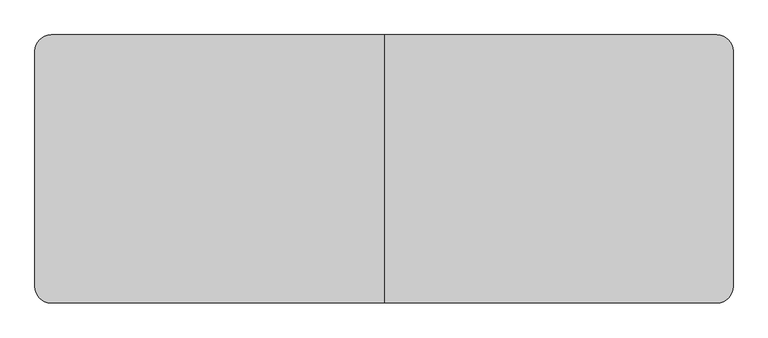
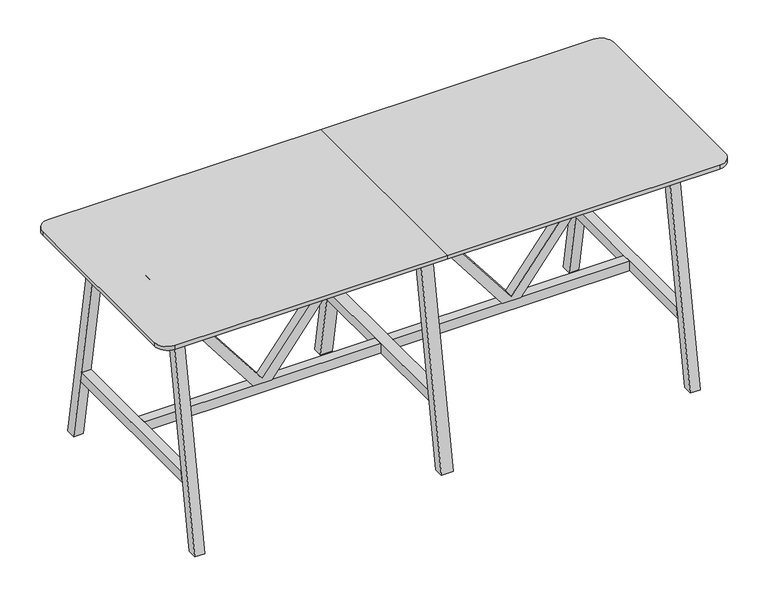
"""IFC4 building model written with IfcOpenShell, lengths in millimetres: furniture geometry, BDG_BossDesign_Tbls_AgentTables6Legs : AGE-HT-6L-2600-1000-3D."""

import ifcopenshell
import ifcopenshell.guid

model = None  # the IFC model being written
_history = None  # IfcOwnerHistory: only IFC2X3 demands one
_inside = {}  # id of a spatial element -> (the spatial element, [elements in it])
_under = {}  # id of a project, library or spatial element -> (it, [spatial elements below it])
_declared = {}  # id of a project -> (the project, [libraries it declares])
_typed = {}  # id of a type object -> (the type object, [elements of that type])
_made_of = {}  # id of a material, layer set ... -> (it, [elements and type objects made of it])


def new_model(schema):
    """Start an empty IFC model of exactly this schema.

    Asked for "IFC4X3", IfcOpenShell would pick the latest addendum, in which some entities
    have other attributes; the version numbers below select the first issue.
    IFC2X3 requires an IfcOwnerHistory on every rooted entity: one is made here for all.
    """
    global model, _history
    if schema == "IFC4X3":
        model = ifcopenshell.file(schema_version=(4, 3, 0, 0))
    else:
        model = ifcopenshell.file(schema=schema)
    _inside.clear()
    _under.clear()
    _declared.clear()
    _typed.clear()
    _made_of.clear()
    _history = None
    if model.schema == "IFC2X3":
        org = make("IfcOrganization", Name="unknown")
        user = make(
            "IfcPersonAndOrganization",
            ThePerson=make("IfcPerson", FamilyName="unknown"),
            TheOrganization=org,
        )
        app = make(
            "IfcApplication",
            ApplicationDeveloper=org,
            Version="unknown",
            ApplicationFullName="unknown",
            ApplicationIdentifier="unknown",
        )
        _history = make(
            "IfcOwnerHistory",
            OwningUser=user,
            OwningApplication=app,
            ChangeAction="ADDED",
            CreationDate=0,
        )
    return model


def make(cls, **values):
    """One entity of the class cls with the attributes given. An attribute that is None is left unset."""
    return model.create_entity(
        cls, **{name: value for name, value in values.items() if value is not None}
    )


def rooted(cls, **values):
    """An entity with a GlobalId (a new one), such as an element, a storey or a relation."""
    return make(cls, GlobalId=ifcopenshell.guid.new(), OwnerHistory=_history, **values)


def si_unit(unit_type, name, prefix=None):
    """IfcSIUnit, for example si_unit("LENGTHUNIT", "METRE", prefix="MILLI")."""
    return make("IfcSIUnit", UnitType=unit_type, Prefix=prefix, Name=name)


def assignment(units):
    """IfcUnitAssignment: the units of a project."""
    return None if units is None else make("IfcUnitAssignment", Units=units)


def point(xyz):
    """IfcCartesianPoint."""
    return None if xyz is None else make("IfcCartesianPoint", Coordinates=xyz)


def direction(xyz):
    """IfcDirection."""
    return None if xyz is None else make("IfcDirection", DirectionRatios=xyz)


def frame(location, z_axis=None, x_axis=None):
    """IfcAxis2Placement3D, a coordinate frame: its origin and axes. An axis left out is left unset."""
    return make(
        "IfcAxis2Placement3D",
        Location=point(location),
        Axis=direction(z_axis),
        RefDirection=direction(x_axis),
    )


def frame_2d(location, x_axis=None):
    """IfcAxis2Placement2D, a coordinate frame in the plane: its origin and x axis."""
    return make(
        "IfcAxis2Placement2D", Location=point(location), RefDirection=direction(x_axis)
    )


def origin():
    """The frame at (0, 0, 0) with its axes left unset."""
    return frame((0.0, 0.0, 0.0))


def place(relative_to, where):
    """IfcLocalPlacement: puts the frame where relative to a parent placement (None: the world)."""
    return make(
        "IfcLocalPlacement", PlacementRelTo=relative_to, RelativePlacement=where
    )


def context(
    kind, dimensions, precision=None, world=None, true_north=None, identifier=None
):
    """IfcGeometricRepresentationContext, for example the 3D "Model" context."""
    return make(
        "IfcGeometricRepresentationContext",
        ContextIdentifier=identifier,
        ContextType=kind,
        CoordinateSpaceDimension=dimensions,
        Precision=precision,
        WorldCoordinateSystem=world,
        TrueNorth=true_north,
    )


def project(units=None, contexts=None):
    """IfcProject with its units and contexts."""
    return rooted(
        "IfcProject",
        Name="project",
        RepresentationContexts=contexts,
        UnitsInContext=assignment(units),
    )


def spatial(cls, under=None, at=None, **own):
    """A site, building, storey or space (cls), placed at a placement, below another one or the project."""
    s = rooted(cls, ObjectPlacement=at, **own)
    if under is not None:
        _under.setdefault(under.id(), (under, []))[1].append(s)
    return s


def polyline(points):
    """IfcPolyline through the points."""
    return make("IfcPolyline", Points=[point(p) for p in points])


def circle_curve(where, radius):
    """IfcCircle in the frame where."""
    return make("IfcCircle", Position=where, Radius=radius)


def trimmed(basis, trim1, trim2, sense, master):
    """IfcTrimmedCurve: the piece of a basis curve between two trims."""
    return make(
        "IfcTrimmedCurve",
        BasisCurve=basis,
        Trim1=trim1,
        Trim2=trim2,
        SenseAgreement=sense,
        MasterRepresentation=master,
    )


def segment(curve, same_sense, transition):
    """IfcCompositeCurveSegment."""
    return make(
        "IfcCompositeCurveSegment",
        Transition=transition,
        SameSense=same_sense,
        ParentCurve=curve,
    )


def composite_curve(segments, self_intersect=None):
    """IfcCompositeCurve: segments joined end to end."""
    return make("IfcCompositeCurve", Segments=segments, SelfIntersect=self_intersect)


def outline(outer, holes=None, kind="AREA"):
    """IfcArbitraryClosedProfileDef: a profile drawn as a closed curve; with holes, ...WithVoids."""
    if holes is None:
        return make("IfcArbitraryClosedProfileDef", ProfileType=kind, OuterCurve=outer)
    return make(
        "IfcArbitraryProfileDefWithVoids",
        ProfileType=kind,
        OuterCurve=outer,
        InnerCurves=holes,
    )


def extrude(swept, where, along, depth):
    """IfcExtrudedAreaSolid: the profile swept, set in the frame where, extruded along a direction by depth."""
    return make(
        "IfcExtrudedAreaSolid",
        SweptArea=swept,
        Position=where,
        ExtrudedDirection=direction(along),
        Depth=depth,
    )


def shape(context_of_items, identifier, shape_type, items):
    """IfcShapeRepresentation: the items that make up one representation, for example the "Body"."""
    return make(
        "IfcShapeRepresentation",
        ContextOfItems=context_of_items,
        RepresentationIdentifier=identifier,
        RepresentationType=shape_type,
        Items=items,
    )


def source(mapping_origin, context_of_items, identifier, shape_type, items):
    """IfcRepresentationMap: a shape defined once, which mapped items show again and again."""
    return make(
        "IfcRepresentationMap",
        MappingOrigin=mapping_origin,
        MappedRepresentation=shape(context_of_items, identifier, shape_type, items),
    )


def transform(
    local_origin,
    x_axis=None,
    y_axis=None,
    z_axis=None,
    scale=None,
    scale2=None,
    scale3=None,
    uniform=True,
):
    """IfcCartesianTransformationOperator3D, or its non-uniform kind. x_axis, y_axis, z_axis: its Axis1, 2, 3."""
    if uniform:
        return make(
            "IfcCartesianTransformationOperator3D",
            Axis1=direction(x_axis),
            Axis2=direction(y_axis),
            LocalOrigin=point(local_origin),
            Scale=scale,
            Axis3=direction(z_axis),
        )
    return make(
        "IfcCartesianTransformationOperator3DnonUniform",
        Axis1=direction(x_axis),
        Axis2=direction(y_axis),
        LocalOrigin=point(local_origin),
        Scale=scale,
        Axis3=direction(z_axis),
        Scale2=scale2,
        Scale3=scale3,
    )


def mapped(mapping_source, mapping_target):
    """IfcMappedItem: shows the shape of a source again, moved by a transform."""
    return make(
        "IfcMappedItem", MappingSource=mapping_source, MappingTarget=mapping_target
    )


def made_of(thing, what):
    """Note that an element or type object is made of a material, layer set ...; save() writes the relation."""
    if what is not None:
        _made_of.setdefault(what.id(), (what, []))[1].append(thing)
    return thing


def element(
    cls,
    number,
    at=None,
    inside=None,
    cuts=None,
    type_object=None,
    material=None,
    context=None,
    identifier="Body",
    shape_type=None,
    held_by="IfcProductDefinitionShape",
    body=None,
    shapes=None,
    **own,
):
    """One element of the class cls, such as IfcWall. Its Tag is "e" and its number.

    at: its placement. inside: the storey or other place that contains it. cuts: it is an
    opening in that element (IfcRelVoidsElement). A single representation is given by context,
    identifier, shape_type and body (its items); several are given by shapes. held_by: the class
    of the entity that holds the representations. save() writes the other relations.
    """
    e = rooted(cls, Tag="e%d" % number, ObjectPlacement=at, **own)
    if body is not None:
        shapes = [shape(context, identifier, shape_type, body)]
    if shapes is not None:
        e.Representation = make(held_by, Representations=shapes)
    if inside is not None:
        _inside.setdefault(inside.id(), (inside, []))[1].append(e)
    if cuts is not None:
        rooted(
            "IfcRelVoidsElement", RelatingBuildingElement=cuts, RelatedOpeningElement=e
        )
    if type_object is not None:
        _typed.setdefault(type_object.id(), (type_object, []))[1].append(e)
    return made_of(e, material)


def aggregate(whole, parts):
    """IfcRelAggregates: a whole, such as a stair, and the parts it consists of."""
    return rooted("IfcRelAggregates", RelatingObject=whole, RelatedObjects=parts)


def save(model, path):
    """Write the relations noted so far, then the file.

    IfcRelAggregates (storeys below a building ...), IfcRelContainedInSpatialStructure (elements
    in a storey), IfcRelDefinesByType, IfcRelAssociatesMaterial and IfcRelDeclares: one each for
    every whole, place, type object, material and project.
    """
    for whole, parts in _under.values():
        aggregate(whole, parts)
    for where, things in _inside.values():
        rooted(
            "IfcRelContainedInSpatialStructure",
            RelatedElements=things,
            RelatingStructure=where,
        )
    for kind, things in _typed.values():
        rooted("IfcRelDefinesByType", RelatedObjects=things, RelatingType=kind)
    for what, things in _made_of.values():
        rooted("IfcRelAssociatesMaterial", RelatedObjects=things, RelatingMaterial=what)
    for by, libraries in _declared.values():
        rooted("IfcRelDeclares", RelatingContext=by, RelatedDefinitions=libraries)
    model.write(path)


def furniture_f5455bfb(model_context):
    return source(origin(), model_context, "Body", "SweptSolid", [
        extrude(outline(polyline([(345.0, 524.0823957), (345.0, 608.4176043), (992.0, 1105.0), (1032.0, 1105.0), (1032.0, 1085.0), (365.0, 566.25), (1032.0, 47.5), (1032.0, 27.5), (992.0, 27.5), (345.0, 524.0823957)])), frame((0.0, -22.5000305, 0.0), z_axis=(0.0, 1.0, 0.0), x_axis=(0.0, 0.0, 1.0)), (0.0, 0.0, 1.0), 45.000061),
        extrude(outline(polyline([(345.0, -524.0823957), (992.0, -27.5), (1032.0, -27.5), (1032.0, -47.5), (365.0, -566.25), (1032.0, -1085.0), (1032.0, -1105.0), (992.0, -1105.0), (345.0, -608.4176043), (345.0, -524.0823957)])), frame((0.0, -22.5000305, 0.0), z_axis=(0.0, 1.0, 0.0), x_axis=(0.0, 0.0, 1.0)), (0.0, 0.0, 1.0), 45.000061),
        extrude(outline(polyline([(500.0, 0.0), (454.9999949, 0.0), (285.5, 970.0), (330.5000051, 970.0), (500.0, 0.0)])), frame((-27.5, 0.0, 0.0), z_axis=(1.0, 0.0, 0.0), x_axis=(0.0, 1.0, 0.0)), (0.0, 0.0, 1.0), 55.0),
        extrude(outline(polyline([(-500.0, 0.0), (-330.5000051, 970.0), (-285.5, 970.0), (-454.9999949, 0.0), (-500.0, 0.0)])), frame((-27.5, 0.0, 0.0), z_axis=(1.0, 0.0, 0.0), x_axis=(0.0, 1.0, 0.0)), (0.0, 0.0, 1.0), 55.0),
        extrude(outline(polyline([(402.5773161, 300.0), (-402.5773161, 300.0), (-394.7139143, 345.0), (394.7139143, 345.0), (402.5773161, 300.0)])), frame((-27.5, 0.0, 0.0), z_axis=(1.0, 0.0, 0.0), x_axis=(0.0, 1.0, 0.0)), (0.0, 0.0, 1.0), 55.0),
        extrude(outline(composite_curve([segment(polyline([(0.0, 500.0), (0.0, -500.0), (-1240.0, -500.0)]), True, "CONTINUOUS"), segment(trimmed(circle_curve(frame_2d((-1240.0, -440.0)), 60.0), [point((-1240.0, -500.0))], [point((-1300.0, -440.0))], False, "CARTESIAN"), True, "CONTINUOUS"), segment(polyline([(-1300.0, -440.0), (-1300.0, 440.0)]), True, "CONTINUOUS"), segment(trimmed(circle_curve(frame_2d((-1240.0, 440.0)), 60.0), [point((-1300.0, 440.0))], [point((-1240.0, 500.0))], False, "CARTESIAN"), True, "CONTINUOUS"), segment(polyline([(-1240.0, 500.0), (0.0, 500.0)]), True, "CONTINUOUS")], self_intersect=False)), frame((0.0, 0.0, 1032.0), z_axis=(0.0, 0.0, 1.0), x_axis=(1.0, 0.0, 0.0)), (0.0, 0.0, 1.0), 18.0),
        extrude(outline(polyline([(-394.7139143, 345.0), (394.7139143, 345.0), (402.5773161, 300.0), (-402.5773161, 300.0), (-394.7139143, 345.0)])), frame((1105.0, 0.0, 0.0), z_axis=(1.0, 0.0, 0.0), x_axis=(0.0, 1.0, 0.0)), (0.0, 0.0, 1.0), 45.0),
        extrude(outline(polyline([(500.0, 0.0), (454.9999949, 0.0), (285.5, 970.0), (330.5000051, 970.0), (500.0, 0.0)])), frame((-1150.0, 0.0, 0.0), z_axis=(1.0, 0.0, 0.0), x_axis=(0.0, 1.0, 0.0)), (0.0, 0.0, 1.0), 45.0),
        extrude(outline(polyline([(-500.0, 0.0), (-330.5000051, 970.0), (-285.5, 970.0), (-454.9999949, 0.0), (-500.0, 0.0)])), frame((-1150.0, 0.0, 0.0), z_axis=(1.0, 0.0, 0.0), x_axis=(0.0, 1.0, 0.0)), (0.0, 0.0, 1.0), 45.0),
        extrude(outline(polyline([(-394.7139143, 345.0), (394.7139143, 345.0), (402.5773161, 300.0), (-402.5773161, 300.0), (-394.7139143, 345.0)])), frame((-1150.0, 0.0, 0.0), z_axis=(1.0, 0.0, 0.0), x_axis=(0.0, 1.0, 0.0)), (0.0, 0.0, 1.0), 45.0),
        extrude(outline(polyline([(-326.6006165, 944.973938), (-304.2770691, 1032.0), (-279.5, 1032.0), (-301.8235474, 944.973938), (-326.6006165, 944.973938)])), frame((-1105.0, 0.0, 0.0), z_axis=(1.0, 0.0, 0.0), x_axis=(0.0, 1.0, 0.0)), (0.0, 0.0, 1.0), 2210.0),
        extrude(outline(polyline([(326.6006165, 944.973938), (301.8235474, 944.973938), (279.5, 1032.0), (304.2770691, 1032.0), (326.6006165, 944.973938)])), frame((-1105.0, 0.0, 0.0), z_axis=(1.0, 0.0, 0.0), x_axis=(0.0, 1.0, 0.0)), (0.0, 0.0, 1.0), 2210.0),
        extrude(outline(polyline([(499.7999878, 0.0), (454.7999827, 0.0), (285.5, 970.0), (330.5000051, 970.0), (499.7999878, 0.0)])), frame((1105.0, 0.0, 0.0), z_axis=(1.0, 0.0, 0.0), x_axis=(0.0, 1.0, 0.0)), (0.0, 0.0, 1.0), 45.0),
        extrude(outline(polyline([(-499.7999878, 0.0), (-330.5000051, 970.0), (-285.5, 970.0), (-454.7999827, 0.0), (-499.7999878, 0.0)])), frame((1105.0, 0.0, 0.0), z_axis=(1.0, 0.0, 0.0), x_axis=(0.0, 1.0, 0.0)), (0.0, 0.0, 1.0), 45.0),
        extrude(outline(polyline([(-27.5, 22.5000305), (-27.5, -22.5000305), (-1105.0, -22.5000305), (-1105.0, 22.5000305), (-27.5, 22.5000305)])), frame((0.0, 0.0, 300.0), z_axis=(0.0, 0.0, 1.0), x_axis=(1.0, 0.0, 0.0)), (0.0, 0.0, 1.0), 45.0),
        extrude(outline(polyline([(27.5, -22.5000305), (27.5, 22.5000305), (1105.0, 22.5000305), (1105.0, -22.5000305), (27.5, -22.5000305)])), frame((0.0, 0.0, 300.0), z_axis=(0.0, 0.0, 1.0), x_axis=(1.0, 0.0, 0.0)), (0.0, 0.0, 1.0), 45.0),
        extrude(outline(composite_curve([segment(trimmed(circle_curve(frame_2d((1240.0, 440.0)), 60.0), [point((1240.0, 500.0))], [point((1300.0, 440.0))], False, "CARTESIAN"), True, "CONTINUOUS"), segment(polyline([(1300.0, 440.0), (1300.0, -440.0)]), True, "CONTINUOUS"), segment(trimmed(circle_curve(frame_2d((1240.0, -440.0)), 60.0), [point((1300.0, -440.0))], [point((1240.0, -500.0))], False, "CARTESIAN"), True, "CONTINUOUS"), segment(polyline([(1240.0, -500.0), (0.0, -500.0), (0.0, 500.0), (1240.0, 500.0)]), True, "CONTINUOUS")], self_intersect=False)), frame((0.0, 0.0, 1032.0), z_axis=(0.0, 0.0, 1.0), x_axis=(1.0, 0.0, 0.0)), (0.0, 0.0, 1.0), 18.0),
    ])


if __name__ == "__main__":
    model = new_model("IFC4")
    model_context = context("Model", 3, world=origin())
    ifc_project = project(units=[si_unit("LENGTHUNIT", "METRE", prefix="MILLI")], contexts=[model_context])
    site = spatial("IfcSite", under=ifc_project)
    building = spatial("IfcBuilding", under=site)
    placement = place(None, origin())
    furniture_shape = furniture_f5455bfb(model_context)
    element("IfcFurniture", 1, ObjectType="BDG_BossDesign_Tbls_AgentTables6Legs : AGE-HT-6L-2600-1000-3D", at=placement, inside=building, context=model_context, shape_type="MappedRepresentation", body=[
        mapped(furniture_shape, transform((0.0, 0.0, 0.0), x_axis=(1.0, 0.0, 0.0), y_axis=(0.0, 1.0, 0.0), z_axis=(0.0, 0.0, 1.0))),
    ])
    save(model, "model.ifc")
